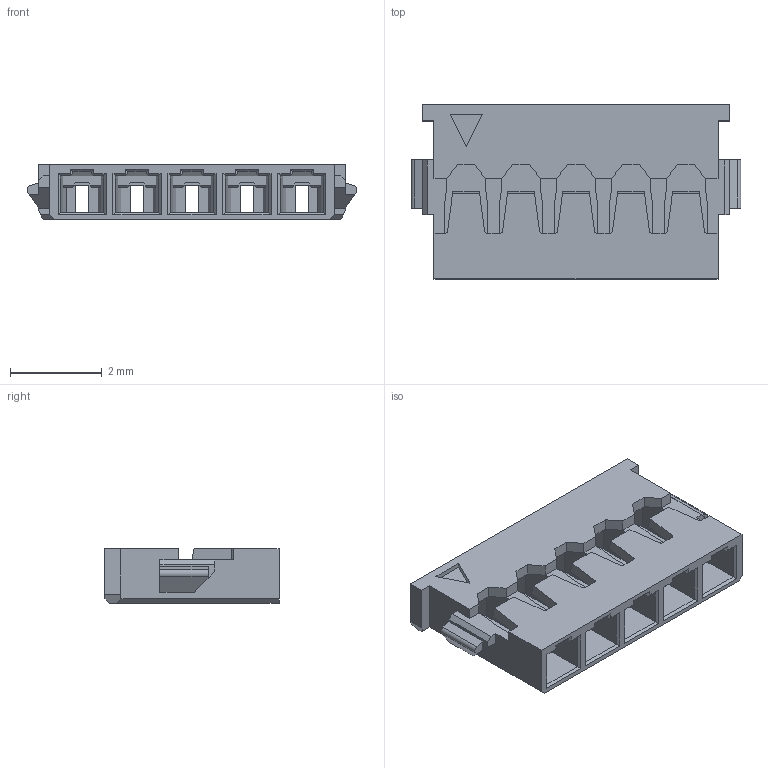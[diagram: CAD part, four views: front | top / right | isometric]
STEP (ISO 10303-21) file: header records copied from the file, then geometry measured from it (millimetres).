
FILE_DESCRIPTION((''),'2;1');
FILE_NAME('S-50270-005HXXX-001','2014-12-30T',('t00317'),(''),'PRO/ENGINEER BY PARAMETRIC TECHNOLOGY CORPORATION, 2007450','PRO/ENGINEER BY PARAMETRIC TECHNOLOGY CORPORATION, 2007450','');
FILE_SCHEMA(('CONFIG_CONTROL_DESIGN', 'GEOMETRIC_VALIDATION_PROPERTIES_MIM'));
Length unit declared in the file: millimetre
Products named in the file (1): S-50270-005HXXX-001
Bounding box: 7.2 x 3.8 x 1.2 mm (x, y, z)
Volume: 14.8 mm3; surface area: 128.3 mm2
Topology: 1 solids, 1 shells, 328 faces, 929 edges, 590 vertices
Faces by surface type: plane 316, cylinder 12
Entity records: 10427 total; most frequent: ORIENTED_EDGE 1858, CARTESIAN_POINT 1848, DIRECTION 1613, EDGE_CURVE 929, VECTOR 901, LINE 901, VERTEX_POINT 590, AXIS2_PLACEMENT_3D 356
